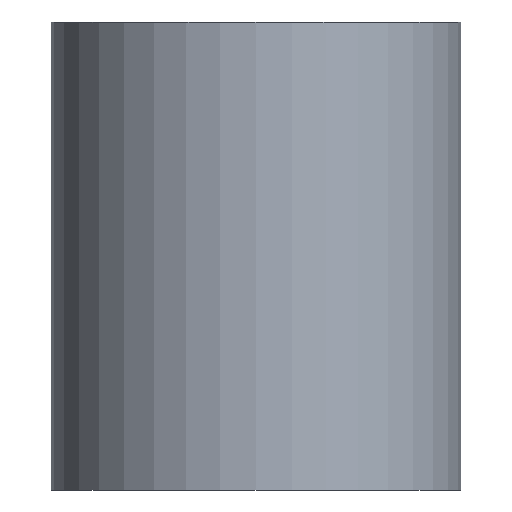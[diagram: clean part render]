
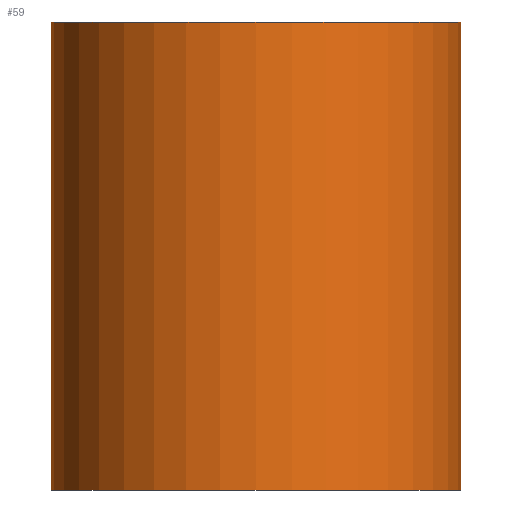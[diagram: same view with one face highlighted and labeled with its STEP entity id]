
A CAD part, front view. The second image highlights one B-rep face of the part: STEP entity #59.
In plain terms, the highlighted cylindrical face has radius 0.7 mm (diameter 1.4 mm), a full revolution.
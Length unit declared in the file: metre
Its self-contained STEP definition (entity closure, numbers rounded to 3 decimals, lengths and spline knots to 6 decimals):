
#15=LINE('',#105,#17);
#17=VECTOR('',#88,1.);
#22=ORIENTED_EDGE('',*,*,#33,.F.);
#23=ORIENTED_EDGE('',*,*,#34,.T.);
#24=ORIENTED_EDGE('',*,*,#35,.T.);
#25=ORIENTED_EDGE('',*,*,#34,.F.);
#33=EDGE_CURVE('',#38,#38,#42,.T.);
#34=EDGE_CURVE('',#38,#39,#15,.F.);
#35=EDGE_CURVE('',#39,#39,#43,.T.);
#38=VERTEX_POINT('',#104);
#39=VERTEX_POINT('',#106);
#42=CIRCLE('',#71,0.0007);
#43=CIRCLE('',#72,0.0007);
#45=EDGE_LOOP('',(#22,#23,#24,#25));
#51=FACE_BOUND('',#45,.T.);
#57=CYLINDRICAL_SURFACE('',#70,0.0007);
#59=ADVANCED_FACE('',(#51),#57,.T.);
#70=AXIS2_PLACEMENT_3D('',#102,#84,#85);
#71=AXIS2_PLACEMENT_3D('',#103,#86,#87);
#72=AXIS2_PLACEMENT_3D('',#107,#89,#90);
#84=DIRECTION('',(0.,0.,1.));
#85=DIRECTION('',(0.,-1.,0.));
#86=DIRECTION('',(0.,0.,1.));
#87=DIRECTION('',(0.,-1.,0.));
#88=DIRECTION('',(0.,0.,1.));
#89=DIRECTION('',(0.,0.,1.));
#90=DIRECTION('',(0.,-1.,0.));
#102=CARTESIAN_POINT('',(-0.04455,-0.00127,-0.03));
#103=CARTESIAN_POINT('',(-0.04455,-0.00127,-0.0284));
#104=CARTESIAN_POINT('',(-0.04455,-0.00057,-0.0284));
#105=CARTESIAN_POINT('',(-0.04455,-0.00057,-0.03));
#106=CARTESIAN_POINT('',(-0.04455,-0.00057,-0.03));
#107=CARTESIAN_POINT('',(-0.04455,-0.00127,-0.03));
